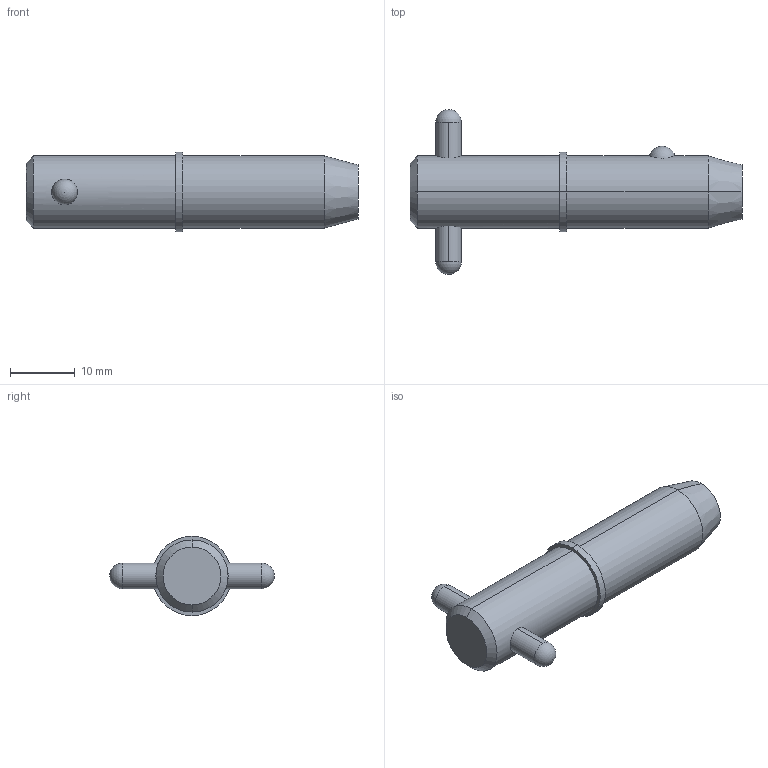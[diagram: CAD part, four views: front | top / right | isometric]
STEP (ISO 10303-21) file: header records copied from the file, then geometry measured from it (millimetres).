
FILE_DESCRIPTION (( 'STEP AP203' ), '1' );
FILE_NAME ('33018.W4305.step', '2024-11-19T17:12:31', ( '' ), ( '' ), 'SwSTEP 2.0', 'SolidWorks 2019', '' );
FILE_SCHEMA (( 'CONFIG_CONTROL_DESIGN' ));
Length unit declared in the file: millimetre
Products named in the file (3): Part1_33018.W4305; Part2_33018.W4305; 33018.W4305
Assembly tree (2 placements, depth 2):
  33018.W4305
    Part1_33018.W4305
    Part2_33018.W4305
Bounding box: 51.1 x 25.4 x 12.22 mm (x, y, z)
Volume: 5015.1 mm3; surface area: 2371.6 mm2
Topology: 2 solids, 2 shells, 22 faces, 47 edges, 30 vertices
Faces by surface type: cylinder 10, sphere 4, cone 4, plane 4
Entity records: 1031 total; most frequent: CARTESIAN_POINT 274, DIRECTION 110, ORIENTED_EDGE 82, AXIS2_PLACEMENT_3D 48, EDGE_CURVE 41, EDGE_LOOP 27, VERTEX_POINT 26, PERSON_AND_ORGANIZATION 26
